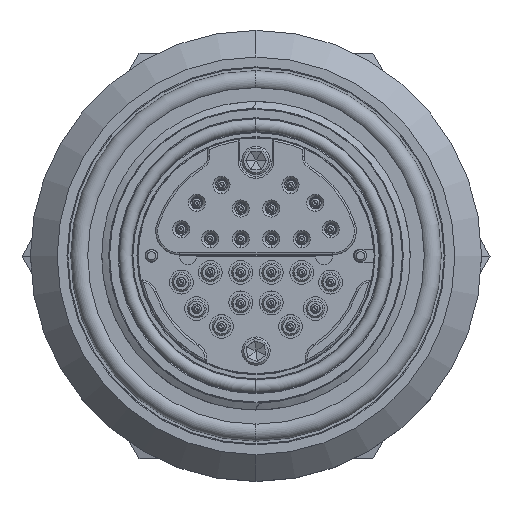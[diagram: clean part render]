
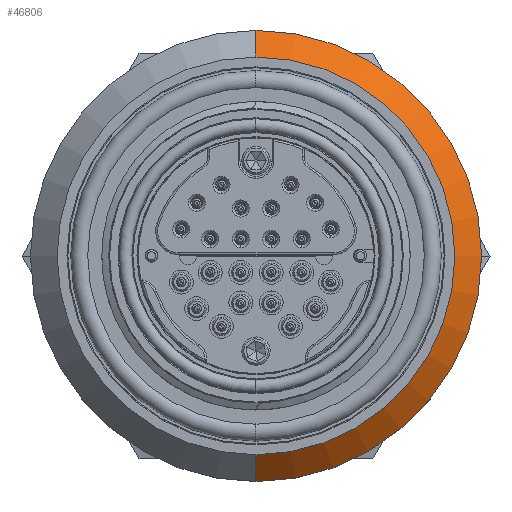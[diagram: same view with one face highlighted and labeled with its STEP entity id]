
A CAD part, top view. The second image highlights one B-rep face of the part: STEP entity #46806.
In plain terms, the highlighted conical face has half-angle 45 degrees and reference radius 30.035 mm.
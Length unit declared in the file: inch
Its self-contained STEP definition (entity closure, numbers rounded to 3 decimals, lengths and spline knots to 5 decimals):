
#1019 = DIRECTION ( 'NONE',  ( 0., -0.707, -0.707 ) ) ;
#2872 = EDGE_CURVE ( 'NONE', #12594, #19371, #50669, .T. ) ;
#3896 = AXIS2_PLACEMENT_3D ( 'NONE', #37782, #10700, #18043 ) ;
#4194 = CARTESIAN_POINT ( 'NONE',  ( 0., -1.1825, -0.698 ) ) ;
#4351 = ORIENTED_EDGE ( 'NONE', *, *, #45579, .T. ) ;
#10700 = DIRECTION ( 'NONE',  ( 0., 0., -1. ) ) ;
#11005 = VERTEX_POINT ( 'NONE', #4194 ) ;
#12236 = EDGE_CURVE ( 'NONE', #19371, #11005, #45904, .T. ) ;
#12594 = VERTEX_POINT ( 'NONE', #46141 ) ;
#12969 = CARTESIAN_POINT ( 'NONE',  ( 0., 0., -0.558 ) ) ;
#14416 = EDGE_CURVE ( 'NONE', #12594, #47708, #20028, .T. ) ;
#17033 = VECTOR ( 'NONE', #38335, 39.37008 ) ;
#18043 = DIRECTION ( 'NONE',  ( 0., 1., 0. ) ) ;
#19371 = VERTEX_POINT ( 'NONE', #31442 ) ;
#20028 = CIRCLE ( 'NONE', #34385, 1.0425 ) ;
#20674 = CARTESIAN_POINT ( 'NONE',  ( 0., -1.1825, -0.698 ) ) ;
#21287 = AXIS2_PLACEMENT_3D ( 'NONE', #39326, #27978, #44039 ) ;
#21898 = EDGE_LOOP ( 'NONE', ( #26795, #4351, #34571, #43247 ) ) ;
#26795 = ORIENTED_EDGE ( 'NONE', *, *, #14416, .T. ) ;
#27978 = DIRECTION ( 'NONE',  ( 0., 0., -1. ) ) ;
#31442 = CARTESIAN_POINT ( 'NONE',  ( 0., 1.1825, -0.698 ) ) ;
#32434 = DIRECTION ( 'NONE',  ( 0., 1., 0. ) ) ;
#34219 = CARTESIAN_POINT ( 'NONE',  ( 0., -1.0425, -0.558 ) ) ;
#34385 = AXIS2_PLACEMENT_3D ( 'NONE', #12969, #44789, #32434 ) ;
#34571 = ORIENTED_EDGE ( 'NONE', *, *, #12236, .F. ) ;
#35132 = FACE_OUTER_BOUND ( 'NONE', #21898, .T. ) ;
#37782 = CARTESIAN_POINT ( 'NONE',  ( 0., 0., -0.698 ) ) ;
#38335 = DIRECTION ( 'NONE',  ( 0., 0.707, -0.707 ) ) ;
#39326 = CARTESIAN_POINT ( 'NONE',  ( 0., 0., -0.698 ) ) ;
#42270 = CARTESIAN_POINT ( 'NONE',  ( 0., 1.1825, -0.698 ) ) ;
#43247 = ORIENTED_EDGE ( 'NONE', *, *, #2872, .F. ) ;
#43641 = VECTOR ( 'NONE', #1019, 39.37008 ) ;
#44013 = CONICAL_SURFACE ( 'NONE', #21287, 1.1825, 0.785 ) ;
#44039 = DIRECTION ( 'NONE',  ( 0., 1., 0. ) ) ;
#44789 = DIRECTION ( 'NONE',  ( 0., 0., -1. ) ) ;
#44908 = LINE ( 'NONE', #20674, #43641 ) ;
#45579 = EDGE_CURVE ( 'NONE', #47708, #11005, #44908, .T. ) ;
#45904 = CIRCLE ( 'NONE', #3896, 1.1825 ) ;
#46141 = CARTESIAN_POINT ( 'NONE',  ( 0., 1.0425, -0.558 ) ) ;
#46806 = ADVANCED_FACE ( 'NONE', ( #35132 ), #44013, .T. ) ;
#47708 = VERTEX_POINT ( 'NONE', #34219 ) ;
#50669 = LINE ( 'NONE', #42270, #17033 ) ;
